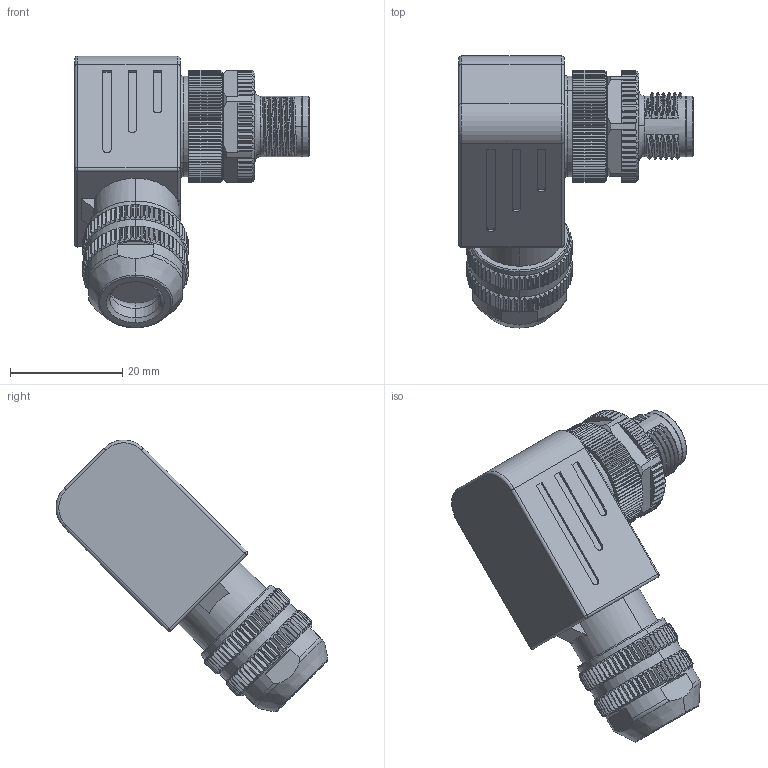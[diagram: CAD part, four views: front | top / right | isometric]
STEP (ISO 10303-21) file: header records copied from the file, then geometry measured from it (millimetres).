
FILE_DESCRIPTION (( 'STEP AP203' ), '1' );
FILE_NAME ('64F681.STEP', '2023-08-18T12:03:42', ( '' ), ( '' ), 'SwSTEP 2.0', 'SolidWorks 2016', '' );
FILE_SCHEMA (( 'CONFIG_CONTROL_DESIGN' ));
Products named in the file (1): 64F681
Bounding box: 41.8 x 48.47 x 48.47 mm (x, y, z)
Volume: 18367.2 mm3; surface area: 9429.8 mm2
Topology: 1 solids, 20 shells, 1397 faces, 3743 edges, 2405 vertices
Faces by surface type: plane 699, cylinder 427, cone 184, bspline 69, torus 14, sphere 4
Entity records: 50496 total; most frequent: CARTESIAN_POINT 18083, ORIENTED_EDGE 7476, DIRECTION 5782, EDGE_CURVE 3738, VERTEX_POINT 2405, AXIS2_PLACEMENT_3D 2305, B_SPLINE_CURVE_WITH_KNOTS 1586, EDGE_LOOP 1455
